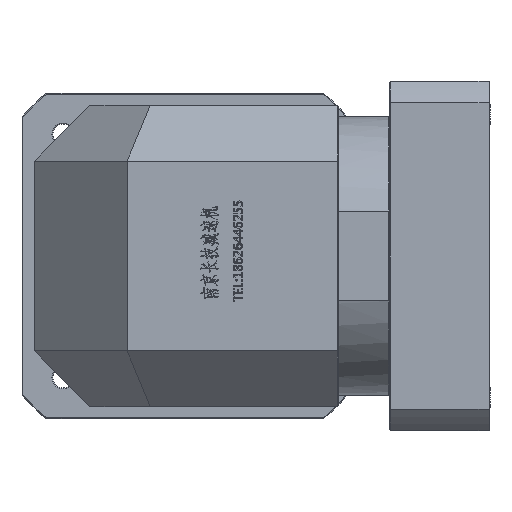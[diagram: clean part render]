
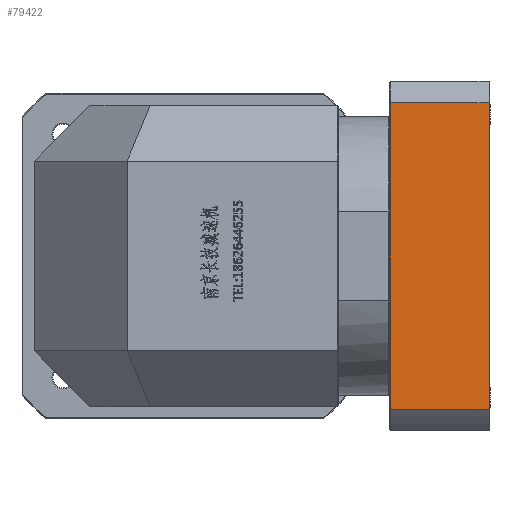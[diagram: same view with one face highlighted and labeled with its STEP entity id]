
A CAD part, left-side view. The second image highlights one B-rep face of the part: STEP entity #79422.
In plain terms, the highlighted planar face has unit normal (-1, 0, 0).
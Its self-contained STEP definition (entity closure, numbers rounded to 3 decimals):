
#4311 = CARTESIAN_POINT ( 'NONE',  ( -142.04, -239.487, 171.089 ) ) ;
#8381 = DIRECTION ( 'NONE',  ( 0., -1., 0. ) ) ;
#36879 = CARTESIAN_POINT ( 'NONE',  ( -142.04, -239.987, 171.089 ) ) ;
#38083 = ORIENTED_EDGE ( 'NONE', *, *, #128207, .F. ) ;
#38086 = VECTOR ( 'NONE', #119353, 1000. ) ;
#39256 = LINE ( 'NONE', #4311, #68577 ) ;
#55087 = CARTESIAN_POINT ( 'NONE',  ( -142.04, -239.987, 347.484 ) ) ;
#66419 = CARTESIAN_POINT ( 'NONE',  ( -142.04, 171.102, 182.693 ) ) ;
#68577 = VECTOR ( 'NONE', #85848, 1000. ) ;
#79422 = ADVANCED_FACE ( 'NONE', ( #83334 ), #93747, .F. ) ;
#81160 = VERTEX_POINT ( 'NONE', #113648 ) ;
#83334 = FACE_OUTER_BOUND ( 'NONE', #98095, .T. ) ;
#84173 = LINE ( 'NONE', #66419, #141351 ) ;
#85838 = VECTOR ( 'NONE', #8381, 1000. ) ;
#85848 = DIRECTION ( 'NONE',  ( 0., 0., -1. ) ) ;
#89150 = EDGE_CURVE ( 'NONE', #91810, #81160, #39256, .T. ) ;
#91810 = VERTEX_POINT ( 'NONE', #138075 ) ;
#92829 = LINE ( 'NONE', #95661, #38086 ) ;
#93747 = PLANE ( 'NONE',  #149892 ) ;
#95661 = CARTESIAN_POINT ( 'NONE',  ( -142.04, -186.487, 171.089 ) ) ;
#98095 = EDGE_LOOP ( 'NONE', ( #38083, #135511, #136306, #99531 ) ) ;
#99531 = ORIENTED_EDGE ( 'NONE', *, *, #89150, .F. ) ;
#103838 = DIRECTION ( 'NONE',  ( 0., 1., 0. ) ) ;
#108555 = VERTEX_POINT ( 'NONE', #125286 ) ;
#113648 = CARTESIAN_POINT ( 'NONE',  ( -142.04, -239.487, 182.693 ) ) ;
#117415 = DIRECTION ( 'NONE',  ( 0., 1., 0. ) ) ;
#119353 = DIRECTION ( 'NONE',  ( 0., 0., -1. ) ) ;
#125286 = CARTESIAN_POINT ( 'NONE',  ( -142.04, -186.487, 347.484 ) ) ;
#127744 = EDGE_CURVE ( 'NONE', #81160, #129646, #84173, .T. ) ;
#128207 = EDGE_CURVE ( 'NONE', #108555, #91810, #131943, .T. ) ;
#129646 = VERTEX_POINT ( 'NONE', #137460 ) ;
#129801 = DIRECTION ( 'NONE',  ( 1., 0., 0. ) ) ;
#131943 = LINE ( 'NONE', #55087, #85838 ) ;
#135511 = ORIENTED_EDGE ( 'NONE', *, *, #142644, .T. ) ;
#136306 = ORIENTED_EDGE ( 'NONE', *, *, #127744, .F. ) ;
#137460 = CARTESIAN_POINT ( 'NONE',  ( -142.04, -186.487, 182.693 ) ) ;
#138075 = CARTESIAN_POINT ( 'NONE',  ( -142.04, -239.487, 347.484 ) ) ;
#141351 = VECTOR ( 'NONE', #103838, 1000. ) ;
#142644 = EDGE_CURVE ( 'NONE', #108555, #129646, #92829, .T. ) ;
#149892 = AXIS2_PLACEMENT_3D ( 'NONE', #36879, #129801, #117415 ) ;
